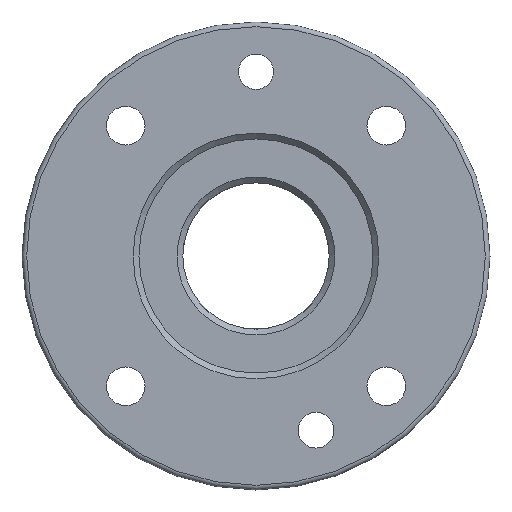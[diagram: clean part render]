
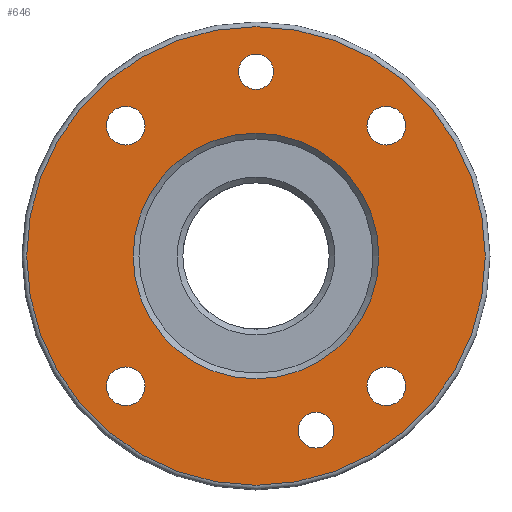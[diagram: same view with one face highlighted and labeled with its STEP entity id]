
A CAD part, front view. The second image highlights one B-rep face of the part: STEP entity #646.
In plain terms, the highlighted planar face has unit normal (0, -1, 0).
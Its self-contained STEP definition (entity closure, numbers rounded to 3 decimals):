
#32=FACE_BOUND('',#109,.T.);
#33=FACE_BOUND('',#110,.T.);
#34=FACE_BOUND('',#111,.T.);
#35=FACE_BOUND('',#112,.T.);
#36=FACE_BOUND('',#113,.T.);
#37=FACE_BOUND('',#114,.T.);
#38=FACE_BOUND('',#115,.T.);
#51=PLANE('',#714);
#71=FACE_OUTER_BOUND('',#108,.T.);
#108=EDGE_LOOP('',(#428));
#109=EDGE_LOOP('',(#429));
#110=EDGE_LOOP('',(#430));
#111=EDGE_LOOP('',(#431));
#112=EDGE_LOOP('',(#432));
#113=EDGE_LOOP('',(#433));
#114=EDGE_LOOP('',(#434));
#115=EDGE_LOOP('',(#435));
#226=CIRCLE('',#705,3.05);
#229=CIRCLE('',#709,39.2);
#233=CIRCLE('',#715,21.);
#234=CIRCLE('',#716,3.);
#235=CIRCLE('',#717,3.3);
#236=CIRCLE('',#718,3.3);
#237=CIRCLE('',#719,3.3);
#238=CIRCLE('',#720,3.3);
#268=VERTEX_POINT('',#978);
#271=VERTEX_POINT('',#985);
#274=VERTEX_POINT('',#996);
#275=VERTEX_POINT('',#998);
#276=VERTEX_POINT('',#1000);
#277=VERTEX_POINT('',#1002);
#278=VERTEX_POINT('',#1004);
#279=VERTEX_POINT('',#1006);
#327=EDGE_CURVE('',#268,#268,#226,.T.);
#330=EDGE_CURVE('',#271,#271,#229,.T.);
#335=EDGE_CURVE('',#274,#274,#233,.T.);
#336=EDGE_CURVE('',#275,#275,#234,.T.);
#337=EDGE_CURVE('',#276,#276,#235,.T.);
#338=EDGE_CURVE('',#277,#277,#236,.T.);
#339=EDGE_CURVE('',#278,#278,#237,.T.);
#340=EDGE_CURVE('',#279,#279,#238,.T.);
#428=ORIENTED_EDGE('',*,*,#330,.F.);
#429=ORIENTED_EDGE('',*,*,#327,.T.);
#430=ORIENTED_EDGE('',*,*,#335,.F.);
#431=ORIENTED_EDGE('',*,*,#336,.T.);
#432=ORIENTED_EDGE('',*,*,#337,.T.);
#433=ORIENTED_EDGE('',*,*,#338,.T.);
#434=ORIENTED_EDGE('',*,*,#339,.T.);
#435=ORIENTED_EDGE('',*,*,#340,.T.);
#646=ADVANCED_FACE('',(#71,#32,#33,#34,#35,#36,#37,#38),#51,.T.);
#705=AXIS2_PLACEMENT_3D('',#980,#789,#790);
#709=AXIS2_PLACEMENT_3D('',#987,#797,#798);
#714=AXIS2_PLACEMENT_3D('',#995,#808,#809);
#715=AXIS2_PLACEMENT_3D('',#997,#810,#811);
#716=AXIS2_PLACEMENT_3D('',#999,#812,#813);
#717=AXIS2_PLACEMENT_3D('',#1001,#814,#815);
#718=AXIS2_PLACEMENT_3D('',#1003,#816,#817);
#719=AXIS2_PLACEMENT_3D('',#1005,#818,#819);
#720=AXIS2_PLACEMENT_3D('',#1007,#820,#821);
#789=DIRECTION('center_axis',(0.,1.,0.));
#790=DIRECTION('ref_axis',(1.,0.,0.));
#797=DIRECTION('center_axis',(0.,1.,0.));
#798=DIRECTION('ref_axis',(1.,0.,0.));
#808=DIRECTION('center_axis',(0.,-1.,0.));
#809=DIRECTION('ref_axis',(0.,0.,-1.));
#810=DIRECTION('center_axis',(0.,-1.,0.));
#811=DIRECTION('ref_axis',(-1.,0.,0.));
#812=DIRECTION('center_axis',(0.,1.,0.));
#813=DIRECTION('ref_axis',(1.,0.,0.));
#814=DIRECTION('center_axis',(0.,1.,0.));
#815=DIRECTION('ref_axis',(1.,0.,0.));
#816=DIRECTION('center_axis',(0.,1.,0.));
#817=DIRECTION('ref_axis',(1.,0.,0.));
#818=DIRECTION('center_axis',(0.,1.,0.));
#819=DIRECTION('ref_axis',(1.,0.,0.));
#820=DIRECTION('center_axis',(0.,1.,0.));
#821=DIRECTION('ref_axis',(1.,0.,0.));
#978=CARTESIAN_POINT('',(7.205,0.,-29.784));
#980=CARTESIAN_POINT('Origin',(10.255,0.,-29.784));
#985=CARTESIAN_POINT('',(0.,0.,-39.2));
#987=CARTESIAN_POINT('Origin',(0.,0.,0.));
#995=CARTESIAN_POINT('Origin',(-26.25,0.,0.));
#996=CARTESIAN_POINT('',(21.,0.,0.));
#997=CARTESIAN_POINT('Origin',(0.,0.,0.));
#998=CARTESIAN_POINT('',(-3.,0.,31.5));
#999=CARTESIAN_POINT('Origin',(0.,0.,31.5));
#1000=CARTESIAN_POINT('',(18.974,0.,-22.274));
#1001=CARTESIAN_POINT('Origin',(22.274,0.,-22.274));
#1002=CARTESIAN_POINT('',(-25.574,0.,-22.274));
#1003=CARTESIAN_POINT('Origin',(-22.274,0.,-22.274));
#1004=CARTESIAN_POINT('',(-25.574,0.,22.274));
#1005=CARTESIAN_POINT('Origin',(-22.274,0.,22.274));
#1006=CARTESIAN_POINT('',(18.974,0.,22.274));
#1007=CARTESIAN_POINT('Origin',(22.274,0.,22.274));
